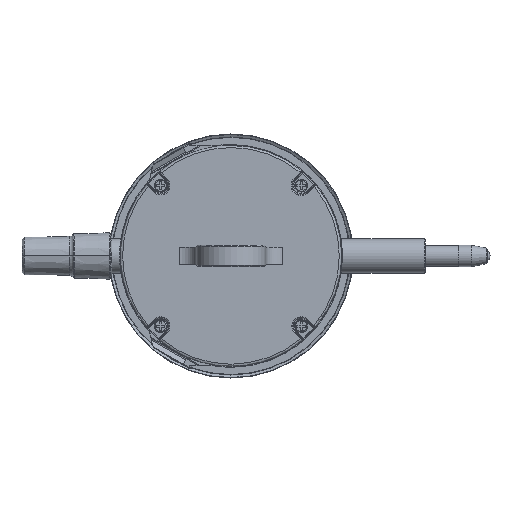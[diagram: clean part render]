
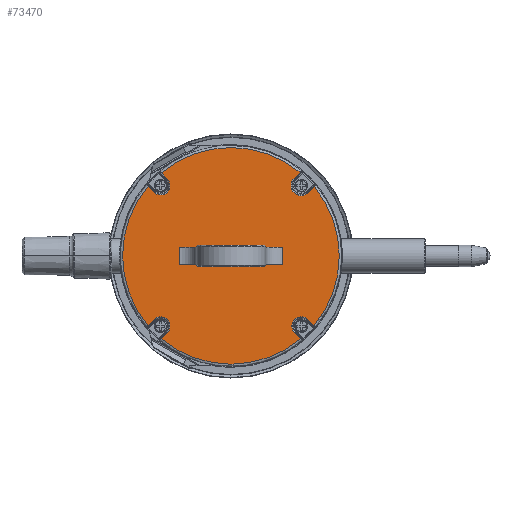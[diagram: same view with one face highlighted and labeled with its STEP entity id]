
A CAD part, top view. The second image highlights one B-rep face of the part: STEP entity #73470.
In plain terms, the highlighted planar face has unit normal (0, 0, 1).
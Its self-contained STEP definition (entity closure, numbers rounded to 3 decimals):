
#17510=CARTESIAN_POINT('',(2.,-8.1,2.1));
#17520=VERTEX_POINT('',#17510);
#17670=CARTESIAN_POINT('',(-2.,-8.1,2.1));
#17680=VERTEX_POINT('',#17670);
#17710=CARTESIAN_POINT('',(0.,-8.1,2.1));
#17720=DIRECTION('',(1.,0.,0.));
#17730=VECTOR('',#17720,1.);
#17740=LINE('',#17710,#17730);
#17750=CARTESIAN_POINT('',(-2.2,-8.1,2.1));
#17760=VERTEX_POINT('',#17750);
#17770=EDGE_CURVE('',#17760,#17680,#17740,.T.);
#17990=CARTESIAN_POINT('',(2.2,-8.1,2.1));
#18000=VERTEX_POINT('',#17990);
#18030=EDGE_CURVE('',#17520,#18000,#17740,.T.);
#38980=CARTESIAN_POINT('',(-14.869,-17.94,2.1));
#38990=VERTEX_POINT('',#38980);
#39020=CARTESIAN_POINT('',(0.,-3.071,2.1));
#39030=DIRECTION('',(-0.707,-0.707,0.));
#39040=VECTOR('',#39030,1.);
#39050=LINE('',#39020,#39040);
#39060=CARTESIAN_POINT('',(-16.288,-19.359,2.1));
#39070=VERTEX_POINT('',#39060);
#39080=EDGE_CURVE('',#38990,#39070,#39050,.T.);
#39280=CARTESIAN_POINT('',(10.3,0.,2.1));
#39290=DIRECTION('',(0.707,0.707,0.));
#39300=VECTOR('',#39290,1.);
#39310=LINE('',#39280,#39300);
#39320=CARTESIAN_POINT('',(2.5,-7.8,2.1));
#39330=VERTEX_POINT('',#39320);
#39340=EDGE_CURVE('',#18000,#39330,#39310,.T.);
#45780=CARTESIAN_POINT('',(19.359,16.288,2.1));
#45790=VERTEX_POINT('',#45780);
#48590=CARTESIAN_POINT('',(14.869,17.94,2.1));
#48600=VERTEX_POINT('',#48590);
#48630=CARTESIAN_POINT('',(0.,3.071,2.1));
#48640=DIRECTION('',(0.707,0.707,0.));
#48650=VECTOR('',#48640,1.);
#48660=LINE('',#48630,#48650);
#48670=CARTESIAN_POINT('',(16.288,19.359,2.1));
#48680=VERTEX_POINT('',#48670);
#48690=EDGE_CURVE('',#48600,#48680,#48660,.T.);
#48960=CARTESIAN_POINT('',(-14.869,17.94,2.1));
#48970=VERTEX_POINT('',#48960);
#49160=CARTESIAN_POINT('',(-16.288,19.359,2.1));
#49170=VERTEX_POINT('',#49160);
#49200=CARTESIAN_POINT('',(0.,3.071,2.1));
#49210=DIRECTION('',(0.707,-0.707,0.));
#49220=VECTOR('',#49210,1.);
#49230=LINE('',#49200,#49220);
#49240=EDGE_CURVE('',#49170,#48970,#49230,.T.);
#52460=CARTESIAN_POINT('',(14.728,-18.082,2.1));
#52470=VERTEX_POINT('',#52460);
#52660=CARTESIAN_POINT('',(16.134,-19.488,2.1));
#52670=VERTEX_POINT('',#52660);
#52700=CARTESIAN_POINT('',(0.,-3.354,2.1));
#52710=DIRECTION('',(-0.707,0.707,0.));
#52720=VECTOR('',#52710,1.);
#52730=LINE('',#52700,#52720);
#52740=EDGE_CURVE('',#52670,#52470,#52730,.T.);
#54570=CARTESIAN_POINT('',(-2.5,0.,2.1));
#54580=DIRECTION('',(0.,1.,0.));
#54590=VECTOR('',#54580,1.);
#54600=LINE('',#54570,#54590);
#54610=CARTESIAN_POINT('',(-2.5,-7.8,2.1));
#54620=VERTEX_POINT('',#54610);
#54630=CARTESIAN_POINT('',(-2.5,7.8,2.1));
#54640=VERTEX_POINT('',#54630);
#54650=EDGE_CURVE('',#54620,#54640,#54600,.T.);
#60660=CARTESIAN_POINT('',(17.94,14.869,2.1));
#60670=VERTEX_POINT('',#60660);
#60700=CARTESIAN_POINT('',(16.405,16.405,2.1));
#60710=DIRECTION('',(0.,0.,1.));
#60720=DIRECTION('',(-1.,0.,0.));
#60730=AXIS2_PLACEMENT_3D('',#60700,#60710,#60720);
#60740=CIRCLE('',#60730,2.172);
#60750=EDGE_CURVE('',#48600,#60670,#60740,.T.);
#66880=CARTESIAN_POINT('',(-19.359,16.288,2.1));
#66890=VERTEX_POINT('',#66880);
#67070=CARTESIAN_POINT('',(-17.94,14.869,2.1));
#67080=VERTEX_POINT('',#67070);
#67110=CARTESIAN_POINT('',(0.,-3.071,2.1));
#67120=DIRECTION('',(-0.707,0.707,0.));
#67130=VECTOR('',#67120,1.);
#67140=LINE('',#67110,#67130);
#67150=EDGE_CURVE('',#67080,#66890,#67140,.T.);
#68560=CARTESIAN_POINT('',(0.,0.,2.1));
#68570=DIRECTION('',(0.,0.,-1.));
#68580=DIRECTION('',(-1.,0.,0.));
#68590=AXIS2_PLACEMENT_3D('',#68560,#68570,#68580);
#68600=CIRCLE('',#68590,25.3);
#68610=EDGE_CURVE('',#52670,#39070,#68600,.T.);
#68930=CARTESIAN_POINT('',(-19.359,-16.288,2.1));
#68940=VERTEX_POINT('',#68930);
#68970=CARTESIAN_POINT('',(0.,3.071,2.1));
#68980=DIRECTION('',(0.707,0.707,0.));
#68990=VECTOR('',#68980,1.);
#69000=LINE('',#68970,#68990);
#69010=CARTESIAN_POINT('',(-17.94,-14.869,2.1));
#69020=VERTEX_POINT('',#69010);
#69030=EDGE_CURVE('',#68940,#69020,#69000,.T.);
#71700=CARTESIAN_POINT('',(0.,0.,2.1));
#71710=DIRECTION('',(0.,0.,-1.));
#71720=DIRECTION('',(-1.,0.,0.));
#71730=AXIS2_PLACEMENT_3D('',#71700,#71710,#71720);
#71740=CIRCLE('',#71730,25.3);
#71750=EDGE_CURVE('',#49170,#48680,#71740,.T.);
#71880=CARTESIAN_POINT('',(0.,0.,2.1));
#71890=DIRECTION('',(0.,0.,-1.));
#71900=DIRECTION('',(1.,0.,0.));
#71910=AXIS2_PLACEMENT_3D('',#71880,#71890,#71900);
#71920=PLANE('',#71910);
#71930=CARTESIAN_POINT('',(-10.3,0.,2.1));
#71940=DIRECTION('',(0.707,-0.707,0.));
#71950=VECTOR('',#71940,1.);
#71960=LINE('',#71930,#71950);
#71970=EDGE_CURVE('',#54620,#17760,#71960,.T.);
#71980=ORIENTED_EDGE('',*,*,#71970,.F.);
#71990=ORIENTED_EDGE('',*,*,#17770,.F.);
#72000=CARTESIAN_POINT('',(-2.,0.,2.1));
#72010=DIRECTION('',(0.,1.,0.));
#72020=VECTOR('',#72010,1.);
#72030=LINE('',#72000,#72020);
#72040=CARTESIAN_POINT('',(-2.,-12.1,2.1));
#72050=VERTEX_POINT('',#72040);
#72060=EDGE_CURVE('',#72050,#17680,#72030,.T.);
#72070=ORIENTED_EDGE('',*,*,#72060,.T.);
#72080=CARTESIAN_POINT('',(-2.,-12.1,2.1));
#72090=DIRECTION('',(1.,0.,0.));
#72100=VECTOR('',#72090,1.);
#72110=LINE('',#72080,#72100);
#72120=CARTESIAN_POINT('',(2.,-12.1,2.1));
#72130=VERTEX_POINT('',#72120);
#72140=EDGE_CURVE('',#72050,#72130,#72110,.T.);
#72150=ORIENTED_EDGE('',*,*,#72140,.F.);
#72160=CARTESIAN_POINT('',(2.,0.,2.1));
#72170=DIRECTION('',(0.,-1.,0.));
#72180=VECTOR('',#72170,1.);
#72190=LINE('',#72160,#72180);
#72200=EDGE_CURVE('',#17520,#72130,#72190,.T.);
#72210=ORIENTED_EDGE('',*,*,#72200,.T.);
#72220=ORIENTED_EDGE('',*,*,#18030,.F.);
#72230=ORIENTED_EDGE('',*,*,#39340,.F.);
#72240=CARTESIAN_POINT('',(2.5,0.,2.1));
#72250=DIRECTION('',(0.,-1.,0.));
#72260=VECTOR('',#72250,1.);
#72270=LINE('',#72240,#72260);
#72280=CARTESIAN_POINT('',(2.5,7.8,2.1));
#72290=VERTEX_POINT('',#72280);
#72300=EDGE_CURVE('',#72290,#39330,#72270,.T.);
#72310=ORIENTED_EDGE('',*,*,#72300,.T.);
#72320=CARTESIAN_POINT('',(10.3,0.,2.1));
#72330=DIRECTION('',(-0.707,0.707,0.));
#72340=VECTOR('',#72330,1.);
#72350=LINE('',#72320,#72340);
#72360=CARTESIAN_POINT('',(2.2,8.1,2.1));
#72370=VERTEX_POINT('',#72360);
#72380=EDGE_CURVE('',#72290,#72370,#72350,.T.);
#72390=ORIENTED_EDGE('',*,*,#72380,.F.);
#72400=CARTESIAN_POINT('',(0.,8.1,2.1));
#72410=DIRECTION('',(-1.,0.,0.));
#72420=VECTOR('',#72410,1.);
#72430=LINE('',#72400,#72420);
#72440=CARTESIAN_POINT('',(2.,8.1,2.1));
#72450=VERTEX_POINT('',#72440);
#72460=EDGE_CURVE('',#72370,#72450,#72430,.T.);
#72470=ORIENTED_EDGE('',*,*,#72460,.F.);
#72480=CARTESIAN_POINT('',(2.,0.,2.1));
#72490=DIRECTION('',(0.,-1.,0.));
#72500=VECTOR('',#72490,1.);
#72510=LINE('',#72480,#72500);
#72520=CARTESIAN_POINT('',(2.,12.1,2.1));
#72530=VERTEX_POINT('',#72520);
#72540=EDGE_CURVE('',#72530,#72450,#72510,.T.);
#72550=ORIENTED_EDGE('',*,*,#72540,.T.);
#72560=CARTESIAN_POINT('',(-2.,12.1,2.1));
#72570=DIRECTION('',(1.,0.,0.));
#72580=VECTOR('',#72570,1.);
#72590=LINE('',#72560,#72580);
#72600=CARTESIAN_POINT('',(-2.,12.1,2.1));
#72610=VERTEX_POINT('',#72600);
#72620=EDGE_CURVE('',#72610,#72530,#72590,.T.);
#72630=ORIENTED_EDGE('',*,*,#72620,.T.);
#72640=CARTESIAN_POINT('',(-2.,0.,2.1));
#72650=DIRECTION('',(0.,1.,0.));
#72660=VECTOR('',#72650,1.);
#72670=LINE('',#72640,#72660);
#72680=CARTESIAN_POINT('',(-2.,8.1,2.1));
#72690=VERTEX_POINT('',#72680);
#72700=EDGE_CURVE('',#72690,#72610,#72670,.T.);
#72710=ORIENTED_EDGE('',*,*,#72700,.T.);
#72720=CARTESIAN_POINT('',(-2.2,8.1,2.1));
#72730=VERTEX_POINT('',#72720);
#72740=EDGE_CURVE('',#72690,#72730,#72430,.T.);
#72750=ORIENTED_EDGE('',*,*,#72740,.F.);
#72760=CARTESIAN_POINT('',(-10.3,0.,2.1));
#72770=DIRECTION('',(0.707,0.707,0.));
#72780=VECTOR('',#72770,1.);
#72790=LINE('',#72760,#72780);
#72800=EDGE_CURVE('',#54640,#72730,#72790,.T.);
#72810=ORIENTED_EDGE('',*,*,#72800,.T.);
#72820=ORIENTED_EDGE('',*,*,#54650,.T.);
#72830=EDGE_LOOP('',(#72820,#72810,#72750,#72710,#72630,#72550,#72470,
#72390,#72310,#72230,#72220,#72210,#72150,#72070,#71990,#71980));
#72840=FACE_BOUND('',#72830,.T.);
#72850=ORIENTED_EDGE('',*,*,#68610,.F.);
#72860=ORIENTED_EDGE('',*,*,#39080,.T.);
#72870=CARTESIAN_POINT('',(-16.405,-16.405,2.1));
#72880=DIRECTION('',(0.,0.,1.));
#72890=DIRECTION('',(-1.,0.,0.));
#72900=AXIS2_PLACEMENT_3D('',#72870,#72880,#72890);
#72910=CIRCLE('',#72900,2.172);
#72920=EDGE_CURVE('',#38990,#69020,#72910,.T.);
#72930=ORIENTED_EDGE('',*,*,#72920,.F.);
#72940=ORIENTED_EDGE('',*,*,#69030,.T.);
#72950=CARTESIAN_POINT('',(0.,0.,2.1));
#72960=DIRECTION('',(0.,0.,-1.));
#72970=DIRECTION('',(-1.,0.,0.));
#72980=AXIS2_PLACEMENT_3D('',#72950,#72960,#72970);
#72990=CIRCLE('',#72980,25.3);
#73000=EDGE_CURVE('',#68940,#66890,#72990,.T.);
#73010=ORIENTED_EDGE('',*,*,#73000,.F.);
#73020=ORIENTED_EDGE('',*,*,#67150,.T.);
#73030=CARTESIAN_POINT('',(-16.405,16.405,2.1));
#73040=DIRECTION('',(0.,0.,1.));
#73050=DIRECTION('',(-1.,0.,0.));
#73060=AXIS2_PLACEMENT_3D('',#73030,#73040,#73050);
#73070=CIRCLE('',#73060,2.172);
#73080=EDGE_CURVE('',#67080,#48970,#73070,.T.);
#73090=ORIENTED_EDGE('',*,*,#73080,.F.);
#73100=ORIENTED_EDGE('',*,*,#49240,.T.);
#73110=ORIENTED_EDGE('',*,*,#71750,.F.);
#73120=ORIENTED_EDGE('',*,*,#48690,.T.);
#73130=ORIENTED_EDGE('',*,*,#60750,.F.);
#73140=CARTESIAN_POINT('',(0.,-3.071,2.1));
#73150=DIRECTION('',(-0.707,-0.707,0.));
#73160=VECTOR('',#73150,1.);
#73170=LINE('',#73140,#73160);
#73180=EDGE_CURVE('',#45790,#60670,#73170,.T.);
#73190=ORIENTED_EDGE('',*,*,#73180,.T.);
#73200=CARTESIAN_POINT('',(0.,0.,2.1));
#73210=DIRECTION('',(0.,0.,-1.));
#73220=DIRECTION('',(-1.,0.,0.));
#73230=AXIS2_PLACEMENT_3D('',#73200,#73210,#73220);
#73240=CIRCLE('',#73230,25.3);
#73250=CARTESIAN_POINT('',(19.488,-16.134,2.1));
#73260=VERTEX_POINT('',#73250);
#73270=EDGE_CURVE('',#45790,#73260,#73240,.T.);
#73280=ORIENTED_EDGE('',*,*,#73270,.F.);
#73290=CARTESIAN_POINT('',(0.,3.354,2.1));
#73300=DIRECTION('',(0.707,-0.707,0.));
#73310=VECTOR('',#73300,1.);
#73320=LINE('',#73290,#73310);
#73330=CARTESIAN_POINT('',(18.082,-14.728,2.1));
#73340=VERTEX_POINT('',#73330);
#73350=EDGE_CURVE('',#73340,#73260,#73320,.T.);
#73360=ORIENTED_EDGE('',*,*,#73350,.T.);
#73370=CARTESIAN_POINT('',(16.405,-16.405,2.1));
#73380=DIRECTION('',(0.,0.,1.));
#73390=DIRECTION('',(-1.,0.,0.));
#73400=AXIS2_PLACEMENT_3D('',#73370,#73380,#73390);
#73410=CIRCLE('',#73400,2.372);
#73420=EDGE_CURVE('',#73340,#52470,#73410,.T.);
#73430=ORIENTED_EDGE('',*,*,#73420,.F.);
#73440=ORIENTED_EDGE('',*,*,#52740,.T.);
#73450=EDGE_LOOP('',(#73440,#73430,#73360,#73280,#73190,#73130,#73120,
#73110,#73100,#73090,#73020,#73010,#72940,#72930,#72860,#72850));
#73460=FACE_OUTER_BOUND('',#73450,.T.);
#73470=ADVANCED_FACE('',(#72840,#73460),#71920,.F.);
